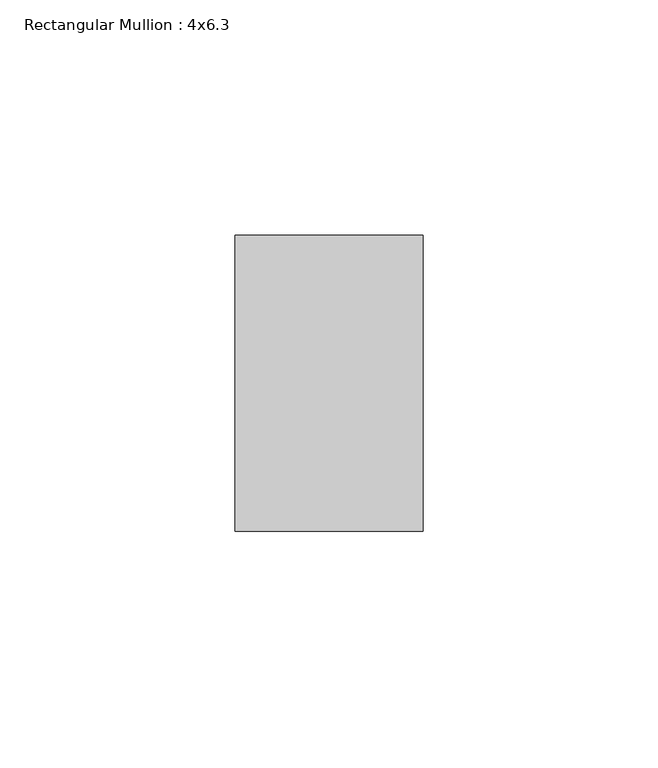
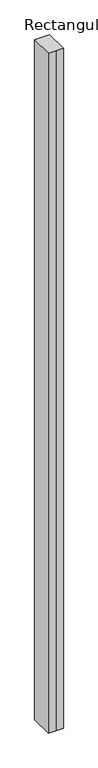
"""IFC4 building model written with IfcOpenShell, lengths in millimetres: member geometry, Rectangular Mullion : 4x6.3."""

from ifc_helpers import new_model, si_unit, frame, origin, place, context, project, spatial, polyline, outline, extrude, source, transform, mapped, element, save


def rectangular_mullion_4x6_3_1b6df3e5(model_context):
    return source(origin(), model_context, "Body", "SweptSolid", [
        extrude(outline(polyline([(-20.0, 20.0), (-20.0, 83.0), (20.0, 83.0), (20.0, 20.0), (0.0, 20.0), (-20.0, 20.0)])), frame((0.0, 0.0, -1918.7839222), z_axis=(0.0, 0.0, 1.0), x_axis=(1.0, 0.0, 0.0)), (0.0, 0.0, 1.0), 1918.7839222),
    ])


if __name__ == "__main__":
    model = new_model("IFC4")
    model_context = context("Model", 3, world=origin())
    ifc_project = project(units=[si_unit("LENGTHUNIT", "METRE", prefix="MILLI")], contexts=[model_context])
    site = spatial("IfcSite", under=ifc_project)
    building = spatial("IfcBuilding", under=site)
    placement = place(None, origin())
    rectangular_mullion_4x6_3_shape = rectangular_mullion_4x6_3_1b6df3e5(model_context)
    element("IfcMember", 1, ObjectType="Rectangular Mullion : 4x6.3", at=placement, inside=building, context=model_context, shape_type="MappedRepresentation", body=[
        mapped(rectangular_mullion_4x6_3_shape, transform((0.0, 0.0, 0.0), x_axis=(1.0, 0.0, 0.0), y_axis=(0.0, 1.0, 0.0), z_axis=(0.0, 0.0, 1.0))),
    ])
    save(model, "model.ifc")
